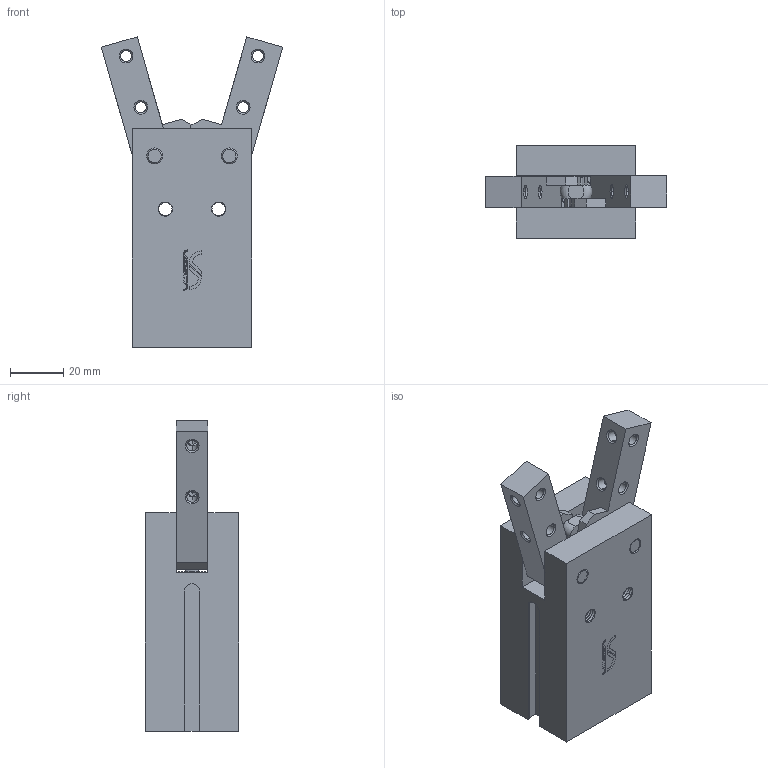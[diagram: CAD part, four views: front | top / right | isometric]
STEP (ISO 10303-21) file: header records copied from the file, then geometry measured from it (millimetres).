
FILE_DESCRIPTION (( 'STEP AP214' ), '1' );
FILE_NAME ('3D MHM Ø 32.STEP', '2015-05-11T06:40:42', ( '' ), ( '' ), 'SwSTEP 2.0', 'SolidWorks 2014', '' );
FILE_SCHEMA (( 'AUTOMOTIVE_DESIGN' ));
Length unit declared in the file: millimetre
Products named in the file (8): PISTON ROD MHM ﾘ 32; BODY MHM ﾘ 32; 3D MHM ﾘ 32; MH ﾘ 32 JAW
Assembly tree (4 placements, depth 2):
  BODY MHM ﾘ 32
  3D MHM ﾘ 32
    BODY MHM ﾘ 32
    PISTON ROD MHM ﾘ 32
    MH ﾘ 32 JAW  x2
  MH ﾘ 32 JAW
  MH ﾘ 32 JAW
  PISTON ROD MHM ﾘ 32
Bounding box: 68.08 x 35 x 116.52 mm (x, y, z)
Volume: 122899.6 mm3; surface area: 43859.7 mm2
Topology: 4 solids, 4 shells, 632 faces, 1472 edges, 858 vertices
Faces by surface type: cone 364, plane 172, cylinder 92, torus 4
Entity records: 18045 total; most frequent: CARTESIAN_POINT 3108, DIRECTION 2959, ORIENTED_EDGE 2646, EDGE_CURVE 1323, AXIS2_PLACEMENT_3D 1075, LINE 809, VECTOR 809, VERTEX_POINT 768
